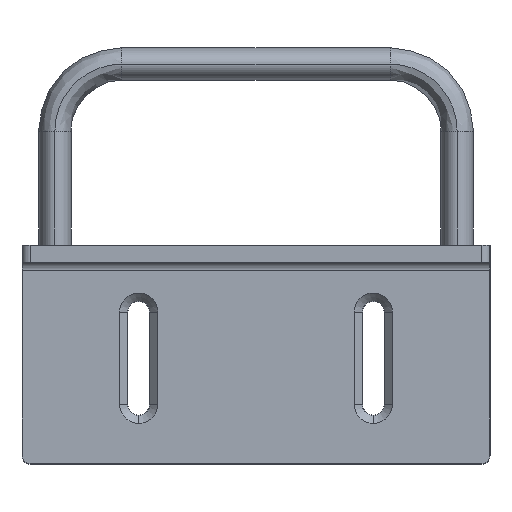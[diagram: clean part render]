
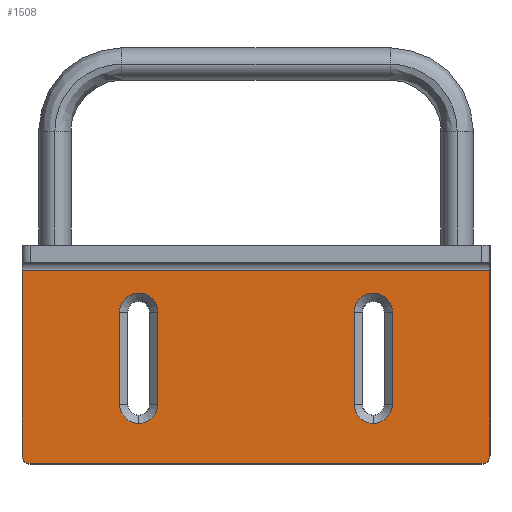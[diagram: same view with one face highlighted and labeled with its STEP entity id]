
A CAD part, left-side view. The second image highlights one B-rep face of the part: STEP entity #1508.
In plain terms, the highlighted planar face has unit normal (-1, 0, 0).
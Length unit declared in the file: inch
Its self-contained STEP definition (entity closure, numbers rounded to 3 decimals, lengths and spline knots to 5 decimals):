
#13 = EDGE_LOOP ( 'NONE', ( #5293, #3912, #60, #5852, #6533 ) ) ;
#60 = ORIENTED_EDGE ( 'NONE', *, *, #6318, .T. ) ;
#117 = EDGE_CURVE ( 'NONE', #3014, #2412, #4260, .T. ) ;
#162 = EDGE_CURVE ( 'NONE', #3099, #4790, #7122, .T. ) ;
#212 = CARTESIAN_POINT ( 'NONE',  ( -0.00657, 1.745, -0.0035 ) ) ;
#215 = DIRECTION ( 'NONE',  ( 0., 0., -1. ) ) ;
#223 = LINE ( 'NONE', #6503, #6260 ) ;
#316 = CARTESIAN_POINT ( 'NONE',  ( -0.00657, 0.875, -0.375 ) ) ;
#336 = VERTEX_POINT ( 'NONE', #5619 ) ;
#590 = EDGE_CURVE ( 'NONE', #3035, #4790, #2018, .T. ) ;
#708 = DIRECTION ( 'NONE',  ( 0., 0., -1. ) ) ;
#773 = LINE ( 'NONE', #3052, #5065 ) ;
#837 = CARTESIAN_POINT ( 'NONE',  ( -0.00657, -0.73232, -0.375 ) ) ;
#1099 = AXIS2_PLACEMENT_3D ( 'NONE', #5142, #1291, #708 ) ;
#1252 = CARTESIAN_POINT ( 'NONE',  ( -0.00657, -1.01768, -1.0625 ) ) ;
#1291 = DIRECTION ( 'NONE',  ( 1., 0., 0. ) ) ;
#1326 = CARTESIAN_POINT ( 'NONE',  ( -0.00657, 1.745, -0.0635 ) ) ;
#1401 = CARTESIAN_POINT ( 'NONE',  ( -0.00657, -1.01768, -1.0625 ) ) ;
#1470 = DIRECTION ( 'NONE',  ( 1., 0., 0. ) ) ;
#1508 = ADVANCED_FACE ( 'NONE', ( #7320, #1641, #1748 ), #4043, .T. ) ;
#1628 = CARTESIAN_POINT ( 'NONE',  ( -0.00657, 1.01768, -0.375 ) ) ;
#1641 = FACE_BOUND ( 'NONE', #3689, .T. ) ;
#1748 = FACE_OUTER_BOUND ( 'NONE', #3622, .T. ) ;
#1783 = ORIENTED_EDGE ( 'NONE', *, *, #7163, .F. ) ;
#1811 = VERTEX_POINT ( 'NONE', #6946 ) ;
#1909 = EDGE_CURVE ( 'NONE', #2412, #4576, #7019, .T. ) ;
#1919 = CIRCLE ( 'NONE', #6389, 0.14268 ) ;
#1954 = DIRECTION ( 'NONE',  ( 0., 0., 1. ) ) ;
#1981 = LINE ( 'NONE', #1326, #3106 ) ;
#2018 = CIRCLE ( 'NONE', #6128, 0.0625 ) ;
#2111 = CARTESIAN_POINT ( 'NONE',  ( -0.00657, 1.6825, -1.5035 ) ) ;
#2120 = DIRECTION ( 'NONE',  ( 0., 0., -1. ) ) ;
#2213 = EDGE_CURVE ( 'NONE', #3605, #6034, #5331, .T. ) ;
#2412 = VERTEX_POINT ( 'NONE', #4623 ) ;
#2434 = CARTESIAN_POINT ( 'NONE',  ( -0.00657, -0.73232, -0.375 ) ) ;
#2487 = ORIENTED_EDGE ( 'NONE', *, *, #162, .F. ) ;
#2489 = CARTESIAN_POINT ( 'NONE',  ( -0.00657, 1.745, -0.0635 ) ) ;
#2491 = CARTESIAN_POINT ( 'NONE',  ( -0.00657, -1.01768, -0.375 ) ) ;
#2504 = DIRECTION ( 'NONE',  ( 0., 0., 1. ) ) ;
#2571 = DIRECTION ( 'NONE',  ( 1., 0., 0. ) ) ;
#2579 = VECTOR ( 'NONE', #1954, 39.37008 ) ;
#2580 = VERTEX_POINT ( 'NONE', #2111 ) ;
#2762 = CARTESIAN_POINT ( 'NONE',  ( -0.00657, -1.745, -1.5035 ) ) ;
#2782 = DIRECTION ( 'NONE',  ( 1., 0., 0. ) ) ;
#2802 = VERTEX_POINT ( 'NONE', #2489 ) ;
#3014 = VERTEX_POINT ( 'NONE', #6324 ) ;
#3035 = VERTEX_POINT ( 'NONE', #5106 ) ;
#3052 = CARTESIAN_POINT ( 'NONE',  ( -0.00657, 1.01768, -0.375 ) ) ;
#3065 = DIRECTION ( 'NONE',  ( 0., -1., 0. ) ) ;
#3088 = LINE ( 'NONE', #212, #5654 ) ;
#3099 = VERTEX_POINT ( 'NONE', #3135 ) ;
#3106 = VECTOR ( 'NONE', #3065, 39.37008 ) ;
#3135 = CARTESIAN_POINT ( 'NONE',  ( -0.00657, -1.745, -0.0635 ) ) ;
#3193 = CARTESIAN_POINT ( 'NONE',  ( -0.00657, 0.73232, -1.0625 ) ) ;
#3266 = DIRECTION ( 'NONE',  ( 1., 0., 0. ) ) ;
#3460 = VECTOR ( 'NONE', #3773, 39.37008 ) ;
#3485 = CARTESIAN_POINT ( 'NONE',  ( -0.00657, -1.745, -1.441 ) ) ;
#3567 = AXIS2_PLACEMENT_3D ( 'NONE', #6825, #1470, #3728 ) ;
#3605 = VERTEX_POINT ( 'NONE', #2491 ) ;
#3622 = EDGE_LOOP ( 'NONE', ( #1783, #5036, #4571, #4150, #2487, #4671 ) ) ;
#3689 = EDGE_LOOP ( 'NONE', ( #6658, #5950, #3835, #6545, #3911 ) ) ;
#3693 = CIRCLE ( 'NONE', #5666, 0.14268 ) ;
#3728 = DIRECTION ( 'NONE',  ( 0., 0., -1. ) ) ;
#3773 = DIRECTION ( 'NONE',  ( 0., 0., -1. ) ) ;
#3817 = CIRCLE ( 'NONE', #6498, 0.14268 ) ;
#3835 = ORIENTED_EDGE ( 'NONE', *, *, #2213, .T. ) ;
#3893 = EDGE_CURVE ( 'NONE', #4576, #3605, #6992, .T. ) ;
#3911 = ORIENTED_EDGE ( 'NONE', *, *, #117, .T. ) ;
#3912 = ORIENTED_EDGE ( 'NONE', *, *, #4963, .T. ) ;
#4043 = PLANE ( 'NONE',  #5386 ) ;
#4150 = ORIENTED_EDGE ( 'NONE', *, *, #590, .T. ) ;
#4242 = VERTEX_POINT ( 'NONE', #3193 ) ;
#4256 = EDGE_CURVE ( 'NONE', #4242, #336, #3693, .T. ) ;
#4260 = CIRCLE ( 'NONE', #3567, 0.14268 ) ;
#4263 = AXIS2_PLACEMENT_3D ( 'NONE', #7302, #6830, #5714 ) ;
#4331 = EDGE_CURVE ( 'NONE', #3035, #2580, #223, .T. ) ;
#4343 = CARTESIAN_POINT ( 'NONE',  ( -0.00657, 0.73232, -1.0625 ) ) ;
#4349 = EDGE_CURVE ( 'NONE', #2802, #3099, #1981, .T. ) ;
#4445 = DIRECTION ( 'NONE',  ( 0., 0., -1. ) ) ;
#4494 = CARTESIAN_POINT ( 'NONE',  ( -0.00657, 0., -0.0035 ) ) ;
#4556 = CARTESIAN_POINT ( 'NONE',  ( -0.00657, -1.6825, -1.441 ) ) ;
#4571 = ORIENTED_EDGE ( 'NONE', *, *, #4331, .F. ) ;
#4576 = VERTEX_POINT ( 'NONE', #2434 ) ;
#4623 = CARTESIAN_POINT ( 'NONE',  ( -0.00657, -0.73232, -1.0625 ) ) ;
#4657 = EDGE_CURVE ( 'NONE', #6034, #3014, #1919, .T. ) ;
#4671 = ORIENTED_EDGE ( 'NONE', *, *, #4349, .F. ) ;
#4790 = VERTEX_POINT ( 'NONE', #3485 ) ;
#4810 = EDGE_CURVE ( 'NONE', #336, #6024, #5333, .T. ) ;
#4812 = LINE ( 'NONE', #4343, #5371 ) ;
#4963 = EDGE_CURVE ( 'NONE', #6951, #6581, #3817, .T. ) ;
#5036 = ORIENTED_EDGE ( 'NONE', *, *, #7285, .T. ) ;
#5065 = VECTOR ( 'NONE', #5279, 39.37008 ) ;
#5088 = CARTESIAN_POINT ( 'NONE',  ( -0.00657, 0.875, -1.0625 ) ) ;
#5106 = CARTESIAN_POINT ( 'NONE',  ( -0.00657, -1.6825, -1.5035 ) ) ;
#5142 = CARTESIAN_POINT ( 'NONE',  ( -0.00657, -0.875, -0.375 ) ) ;
#5279 = DIRECTION ( 'NONE',  ( 0., 0., 1. ) ) ;
#5284 = CARTESIAN_POINT ( 'NONE',  ( -0.00657, -0.875, -1.0625 ) ) ;
#5293 = ORIENTED_EDGE ( 'NONE', *, *, #7157, .T. ) ;
#5331 = LINE ( 'NONE', #1401, #3460 ) ;
#5333 = CIRCLE ( 'NONE', #6510, 0.14268 ) ;
#5371 = VECTOR ( 'NONE', #2120, 39.37008 ) ;
#5386 = AXIS2_PLACEMENT_3D ( 'NONE', #4494, #5733, #6771 ) ;
#5427 = CARTESIAN_POINT ( 'NONE',  ( -0.00657, 0.875, -1.0625 ) ) ;
#5574 = DIRECTION ( 'NONE',  ( -1., 0., 0. ) ) ;
#5619 = CARTESIAN_POINT ( 'NONE',  ( -0.00657, 0.875, -1.20518 ) ) ;
#5654 = VECTOR ( 'NONE', #2504, 39.37008 ) ;
#5666 = AXIS2_PLACEMENT_3D ( 'NONE', #5427, #2571, #7142 ) ;
#5714 = DIRECTION ( 'NONE',  ( 0., 0., -1. ) ) ;
#5733 = DIRECTION ( 'NONE',  ( -1., 0., 0. ) ) ;
#5852 = ORIENTED_EDGE ( 'NONE', *, *, #4256, .T. ) ;
#5950 = ORIENTED_EDGE ( 'NONE', *, *, #3893, .T. ) ;
#6024 = VERTEX_POINT ( 'NONE', #6706 ) ;
#6034 = VERTEX_POINT ( 'NONE', #1252 ) ;
#6123 = CIRCLE ( 'NONE', #4263, 0.0625 ) ;
#6128 = AXIS2_PLACEMENT_3D ( 'NONE', #4556, #5574, #6276 ) ;
#6260 = VECTOR ( 'NONE', #6363, 39.37008 ) ;
#6276 = DIRECTION ( 'NONE',  ( 0., 0., -1. ) ) ;
#6318 = EDGE_CURVE ( 'NONE', #6581, #4242, #4812, .T. ) ;
#6324 = CARTESIAN_POINT ( 'NONE',  ( -0.00657, -0.875, -1.20518 ) ) ;
#6363 = DIRECTION ( 'NONE',  ( 0., 1., 0. ) ) ;
#6389 = AXIS2_PLACEMENT_3D ( 'NONE', #5284, #6993, #215 ) ;
#6477 = VECTOR ( 'NONE', #6662, 39.37008 ) ;
#6498 = AXIS2_PLACEMENT_3D ( 'NONE', #316, #3266, #6521 ) ;
#6503 = CARTESIAN_POINT ( 'NONE',  ( -0.00657, 1.745, -1.5035 ) ) ;
#6510 = AXIS2_PLACEMENT_3D ( 'NONE', #5088, #2782, #4445 ) ;
#6521 = DIRECTION ( 'NONE',  ( 0., 0., -1. ) ) ;
#6533 = ORIENTED_EDGE ( 'NONE', *, *, #4810, .T. ) ;
#6545 = ORIENTED_EDGE ( 'NONE', *, *, #4657, .T. ) ;
#6581 = VERTEX_POINT ( 'NONE', #6970 ) ;
#6658 = ORIENTED_EDGE ( 'NONE', *, *, #1909, .T. ) ;
#6662 = DIRECTION ( 'NONE',  ( 0., 0., -1. ) ) ;
#6706 = CARTESIAN_POINT ( 'NONE',  ( -0.00657, 1.01768, -1.0625 ) ) ;
#6771 = DIRECTION ( 'NONE',  ( 0., 0., -1. ) ) ;
#6825 = CARTESIAN_POINT ( 'NONE',  ( -0.00657, -0.875, -1.0625 ) ) ;
#6830 = DIRECTION ( 'NONE',  ( -1., 0., 0. ) ) ;
#6946 = CARTESIAN_POINT ( 'NONE',  ( -0.00657, 1.745, -1.441 ) ) ;
#6951 = VERTEX_POINT ( 'NONE', #1628 ) ;
#6970 = CARTESIAN_POINT ( 'NONE',  ( -0.00657, 0.73232, -0.375 ) ) ;
#6992 = CIRCLE ( 'NONE', #1099, 0.14268 ) ;
#6993 = DIRECTION ( 'NONE',  ( 1., 0., 0. ) ) ;
#7019 = LINE ( 'NONE', #837, #2579 ) ;
#7122 = LINE ( 'NONE', #2762, #6477 ) ;
#7142 = DIRECTION ( 'NONE',  ( 0., 0., -1. ) ) ;
#7157 = EDGE_CURVE ( 'NONE', #6024, #6951, #773, .T. ) ;
#7163 = EDGE_CURVE ( 'NONE', #1811, #2802, #3088, .T. ) ;
#7285 = EDGE_CURVE ( 'NONE', #1811, #2580, #6123, .T. ) ;
#7302 = CARTESIAN_POINT ( 'NONE',  ( -0.00657, 1.6825, -1.441 ) ) ;
#7320 = FACE_BOUND ( 'NONE', #13, .T. ) ;
